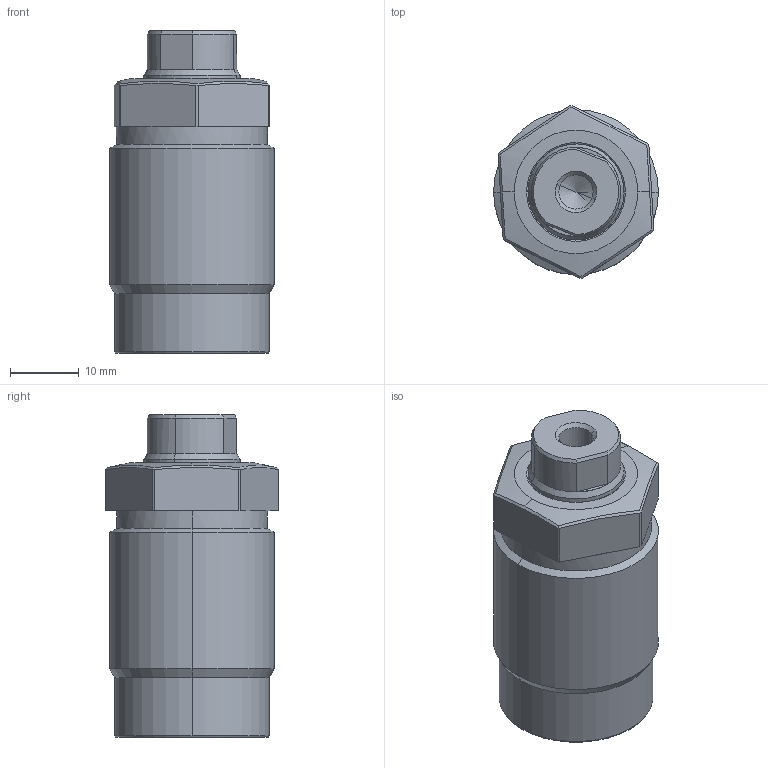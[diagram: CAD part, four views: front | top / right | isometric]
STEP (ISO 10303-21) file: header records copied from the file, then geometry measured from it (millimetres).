
FILE_DESCRIPTION (( 'STEP AP214' ), '1' );
FILE_NAME ('TO3C-M242-M.STEP', '2020-07-09T04:55:33', ( '' ), ( '' ), 'SwSTEP 2.0', 'SolidWorks 2019', '' );
FILE_SCHEMA (( 'AUTOMOTIVE_DESIGN' ));
Length unit declared in the file: millimetre
Products named in the file (3): TO3C-M242-M; TO3C-M242-M-BODY; M242-M-PLUNGER
Assembly tree (2 placements, depth 2):
  TO3C-M242-M
    TO3C-M242-M-BODY
    M242-M-PLUNGER
Bounding box: 24 x 25.18 x 47 mm (x, y, z)
Volume: 17070.7 mm3; surface area: 7233.3 mm2
Topology: 2 solids, 2 shells, 81 faces, 184 edges, 110 vertices
Faces by surface type: plane 32, cone 23, cylinder 20, bspline 6
Entity records: 3007 total; most frequent: CARTESIAN_POINT 1092, DIRECTION 371, ORIENTED_EDGE 364, EDGE_CURVE 182, AXIS2_PLACEMENT_3D 145, VERTEX_POINT 110, EDGE_LOOP 86, FACE_OUTER_BOUND 81
